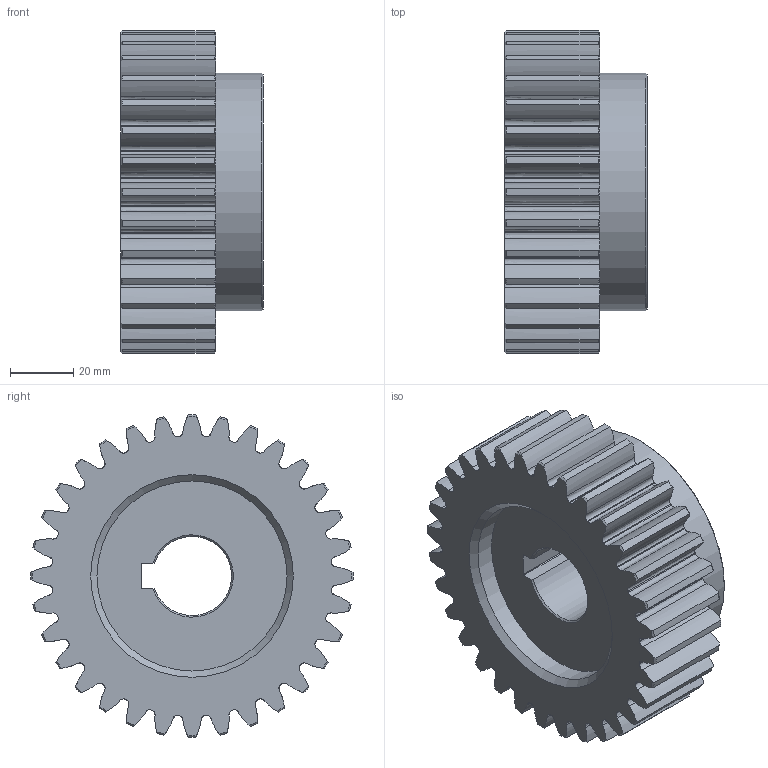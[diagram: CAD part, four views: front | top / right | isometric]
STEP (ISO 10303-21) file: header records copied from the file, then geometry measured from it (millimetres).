
FILE_DESCRIPTION(('STEP AP214'), '1');
FILE_NAME('GS3-T32D25 - Øåñòåðíÿ', '2018-06-14T13:18:29', (''), (''), 'ASCON STEP Converter 1.3', 'ASCON Math Kernel', '');
FILE_SCHEMA(('AUTOMOTIVE_DESIGN { 1 0 10303 214 3 1 1}'));
Length unit declared in the file: millimetre
Products named in the file (1): GS3-T32D25
Bounding box: 45 x 102 x 102 mm (x, y, z)
Volume: 239274.1 mm3; surface area: 38792.9 mm2
Topology: 1 solids, 1 shells, 272 faces, 804 edges, 538 vertices
Faces by surface type: extrusion 128, cylinder 69, cone 68, plane 7
Full cylindrical faces by diameter (mm): 60 x1, 75 x1
Entity records: 13867 total; most frequent: CARTESIAN_POINT 4829, ORIENTED_EDGE 1596, DIRECTION 1034, EDGE_CURVE 798, VERTEX_POINT 534, B_SPLINE_CURVE_WITH_KNOTS 516, AXIS2_PLACEMENT_3D 351, VECTOR 332
